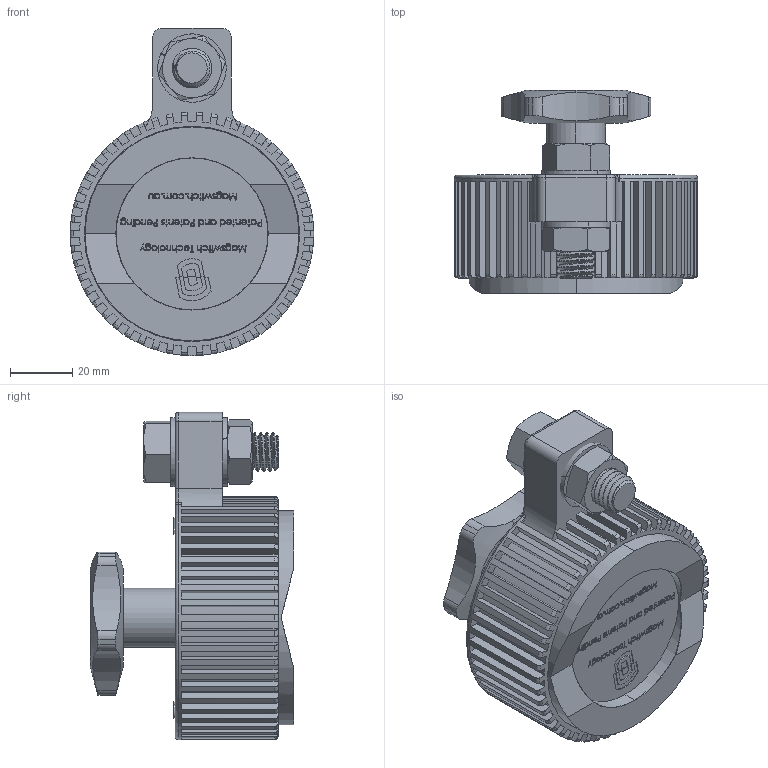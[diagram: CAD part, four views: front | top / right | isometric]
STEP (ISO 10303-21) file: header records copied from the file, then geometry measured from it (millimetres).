
FILE_DESCRIPTION (( 'STEP AP214' ), '1' );
FILE_NAME ('8000747.STEP', '2015-05-01T14:29:20', ( '' ), ( '' ), 'SwSTEP 2.0', 'SolidWorks 2013', '' );
FILE_SCHEMA (( 'AUTOMOTIVE_DESIGN' ));
Length unit declared in the file: millimetre
Products named in the file (19): 190012_190012; 600013; 190011_190011; 320032; 240414; 8000747; 180676_91294A241; 180675_92125A241; 180015; 180014; 180923_91309A714; 180005_93839A823; 7010107; 3001030; 600024; 320027; 300848; 7000146; 320009
Assembly tree (25 placements, depth 3):
  8000747
    7000146
      240414
      320032
      190011_190011
      600013
      190012_190012
      320009
    7010107
      300848
      320027
      600024
      3001030
    180005_93839A823
    180923_91309A714
    180014  x2
    180015
    180675_92125A241  x4
    180676_91294A241  x4
Bounding box: 78.5 x 65.5 x 105.55 mm (x, y, z)
Volume: 178947.5 mm3; surface area: 92144.4 mm2
Topology: 23 solids, 23 shells, 2565 faces, 6863 edges, 4480 vertices
Faces by surface type: plane 948, cylinder 837, bspline 511, cone 187, torus 82
Entity records: 95457 total; most frequent: CARTESIAN_POINT 47682, ORIENTED_EDGE 10648, DIRECTION 7560, EDGE_CURVE 5324, VERTEX_POINT 3500, VECTOR 2988, LINE 2988, AXIS2_PLACEMENT_3D 2286
